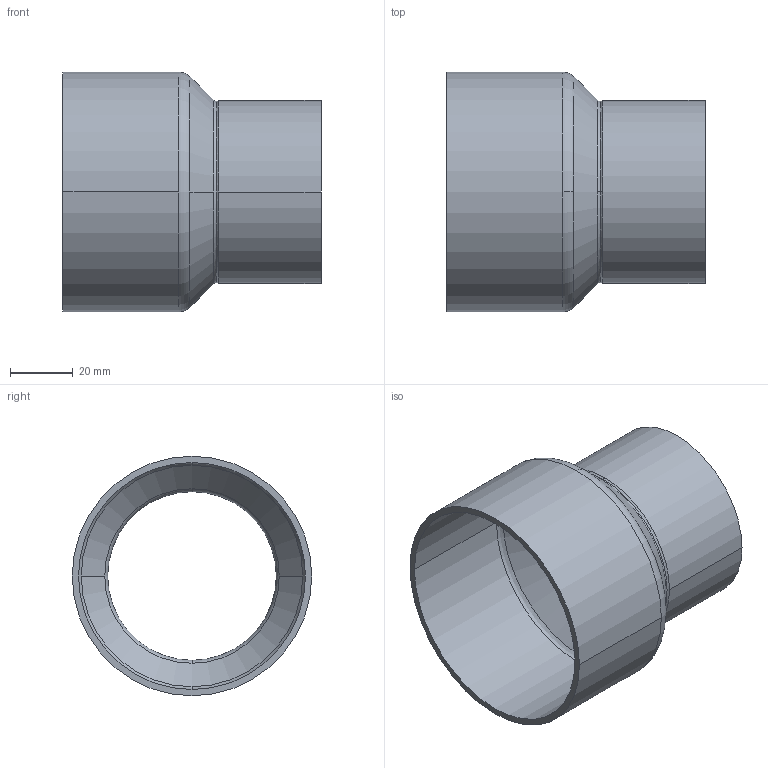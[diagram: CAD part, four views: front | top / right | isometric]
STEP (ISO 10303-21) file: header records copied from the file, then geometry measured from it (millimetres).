
FILE_DESCRIPTION((''),'2;1');
FILE_NAME('G:\Technics\CAD\Bauteile\Serie 15243\152437654.stp','2005-10-21T12:49:51',('boden'),(''),'Autodesk Inventor 8','Autodesk Inventor 8','');
FILE_SCHEMA(('AUTOMOTIVE_DESIGN { 1 0 10303 214 1 1 1 1 }'));
Length unit declared in the file: millimetre
Products named in the file (1): 152437654
Bounding box: 82 x 76.1 x 76.1 mm (x, y, z)
Volume: 35237.1 mm3; surface area: 36057.2 mm2
Topology: 1 solids, 1 shells, 26 faces, 68 edges, 44 vertices
Faces by surface type: cylinder 8, torus 6, bspline 6, cone 4, plane 2
Entity records: 1103 total; most frequent: CARTESIAN_POINT 403, DIRECTION 166, ORIENTED_EDGE 136, AXIS2_PLACEMENT_3D 77, EDGE_CURVE 68, CIRCLE 56, VERTEX_POINT 44, EDGE_LOOP 28
